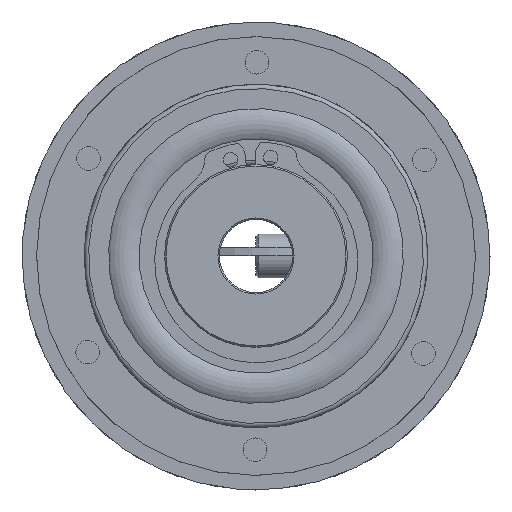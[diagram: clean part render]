
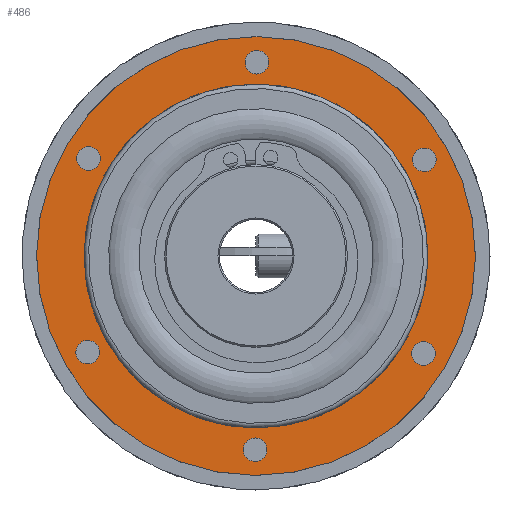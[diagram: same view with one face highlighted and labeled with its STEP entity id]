
A CAD part, left-side view. The second image highlights one B-rep face of the part: STEP entity #486.
In plain terms, the highlighted planar face has unit normal (-1, 0, 0).
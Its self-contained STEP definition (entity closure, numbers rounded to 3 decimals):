
#486 = ADVANCED_FACE( '', ( #842, #843, #844, #845, #846, #847, #848, #849 ), #850, .F. );
#842 = FACE_OUTER_BOUND( '', #1193, .T. );
#843 = FACE_BOUND( '', #1194, .T. );
#844 = FACE_BOUND( '', #1195, .T. );
#845 = FACE_BOUND( '', #1196, .T. );
#846 = FACE_BOUND( '', #1197, .T. );
#847 = FACE_BOUND( '', #1198, .T. );
#848 = FACE_BOUND( '', #1199, .T. );
#849 = FACE_BOUND( '', #1200, .T. );
#850 = PLANE( '', #1201 );
#1193 = EDGE_LOOP( '', ( #1954 ) );
#1194 = EDGE_LOOP( '', ( #1955 ) );
#1195 = EDGE_LOOP( '', ( #1956 ) );
#1196 = EDGE_LOOP( '', ( #1957 ) );
#1197 = EDGE_LOOP( '', ( #1958 ) );
#1198 = EDGE_LOOP( '', ( #1959 ) );
#1199 = EDGE_LOOP( '', ( #1960 ) );
#1200 = EDGE_LOOP( '', ( #1961 ) );
#1201 = AXIS2_PLACEMENT_3D( '', #1962, #1963, #1964 );
#1954 = ORIENTED_EDGE( '', *, *, #2196, .T. );
#1955 = ORIENTED_EDGE( '', *, *, #2200, .T. );
#1956 = ORIENTED_EDGE( '', *, *, #2204, .T. );
#1957 = ORIENTED_EDGE( '', *, *, #2205, .T. );
#1958 = ORIENTED_EDGE( '', *, *, #2206, .T. );
#1959 = ORIENTED_EDGE( '', *, *, #2198, .T. );
#1960 = ORIENTED_EDGE( '', *, *, #2203, .T. );
#1961 = ORIENTED_EDGE( '', *, *, #2207, .F. );
#1962 = CARTESIAN_POINT( '', ( -11.4, 30., 0. ) );
#1963 = DIRECTION( '', ( 1., 0., 0. ) );
#1964 = DIRECTION( '', ( 0., 1., 0. ) );
#2196 = EDGE_CURVE( '', #2553, #2553, #2554, .T. );
#2198 = EDGE_CURVE( '', #2557, #2557, #2558, .T. );
#2200 = EDGE_CURVE( '', #2561, #2561, #2562, .T. );
#2203 = EDGE_CURVE( '', #2567, #2567, #2568, .T. );
#2204 = EDGE_CURVE( '', #2569, #2569, #2570, .T. );
#2205 = EDGE_CURVE( '', #2571, #2571, #2572, .T. );
#2206 = EDGE_CURVE( '', #2573, #2573, #2574, .T. );
#2207 = EDGE_CURVE( '', #2575, #2575, #2576, .T. );
#2553 = VERTEX_POINT( '', #3469 );
#2554 = CIRCLE( '', #3470, 30. );
#2557 = VERTEX_POINT( '', #3473 );
#2558 = CIRCLE( '', #3474, 1.621 );
#2561 = VERTEX_POINT( '', #3477 );
#2562 = CIRCLE( '', #3478, 1.621 );
#2567 = VERTEX_POINT( '', #3483 );
#2568 = CIRCLE( '', #3484, 1.621 );
#2569 = VERTEX_POINT( '', #3485 );
#2570 = CIRCLE( '', #3486, 1.621 );
#2571 = VERTEX_POINT( '', #3487 );
#2572 = CIRCLE( '', #3488, 1.621 );
#2573 = VERTEX_POINT( '', #3489 );
#2574 = CIRCLE( '', #3490, 1.621 );
#2575 = VERTEX_POINT( '', #3491 );
#2576 = CIRCLE( '', #3492, 23.5 );
#3469 = CARTESIAN_POINT( '', ( -11.4, 0., 30. ) );
#3470 = AXIS2_PLACEMENT_3D( '', #3839, #3840, #3841 );
#3473 = CARTESIAN_POINT( '', ( -11.4, -24.354, 14.061 ) );
#3474 = AXIS2_PLACEMENT_3D( '', #3845, #3846, #3847 );
#3477 = CARTESIAN_POINT( '', ( -11.4, 24.354, 14.061 ) );
#3478 = AXIS2_PLACEMENT_3D( '', #3851, #3852, #3853 );
#3483 = CARTESIAN_POINT( '', ( -11.4, 0., 28.121 ) );
#3484 = AXIS2_PLACEMENT_3D( '', #3860, #3861, #3862 );
#3485 = CARTESIAN_POINT( '', ( -11.4, 24.354, -14.061 ) );
#3486 = AXIS2_PLACEMENT_3D( '', #3863, #3864, #3865 );
#3487 = CARTESIAN_POINT( '', ( -11.4, 0., -28.121 ) );
#3488 = AXIS2_PLACEMENT_3D( '', #3866, #3867, #3868 );
#3489 = CARTESIAN_POINT( '', ( -11.4, -24.354, -14.061 ) );
#3490 = AXIS2_PLACEMENT_3D( '', #3869, #3870, #3871 );
#3491 = CARTESIAN_POINT( '', ( -11.4, 0., 23.5 ) );
#3492 = AXIS2_PLACEMENT_3D( '', #3872, #3873, #3874 );
#3839 = CARTESIAN_POINT( '', ( -11.4, 0., 0. ) );
#3840 = DIRECTION( '', ( -1., 0., 0. ) );
#3841 = DIRECTION( '', ( 0., 0., 1. ) );
#3845 = CARTESIAN_POINT( '', ( -11.4, -22.95, 13.25 ) );
#3846 = DIRECTION( '', ( 1., 0., 0. ) );
#3847 = DIRECTION( '', ( 0., -0.866, 0.5 ) );
#3851 = CARTESIAN_POINT( '', ( -11.4, 22.95, 13.25 ) );
#3852 = DIRECTION( '', ( 1., 0., 0. ) );
#3853 = DIRECTION( '', ( 0., 0.866, 0.5 ) );
#3860 = CARTESIAN_POINT( '', ( -11.4, 0., 26.5 ) );
#3861 = DIRECTION( '', ( 1., 0., 0. ) );
#3862 = DIRECTION( '', ( 0., 0., 1. ) );
#3863 = CARTESIAN_POINT( '', ( -11.4, 22.95, -13.25 ) );
#3864 = DIRECTION( '', ( 1., 0., 0. ) );
#3865 = DIRECTION( '', ( 0., 0.866, -0.5 ) );
#3866 = CARTESIAN_POINT( '', ( -11.4, 0., -26.5 ) );
#3867 = DIRECTION( '', ( 1., 0., 0. ) );
#3868 = DIRECTION( '', ( 0., 0., -1. ) );
#3869 = CARTESIAN_POINT( '', ( -11.4, -22.95, -13.25 ) );
#3870 = DIRECTION( '', ( 1., 0., 0. ) );
#3871 = DIRECTION( '', ( 0., -0.866, -0.5 ) );
#3872 = CARTESIAN_POINT( '', ( -11.4, 0., 0. ) );
#3873 = DIRECTION( '', ( -1., 0., 0. ) );
#3874 = DIRECTION( '', ( 0., 0., 1. ) );
